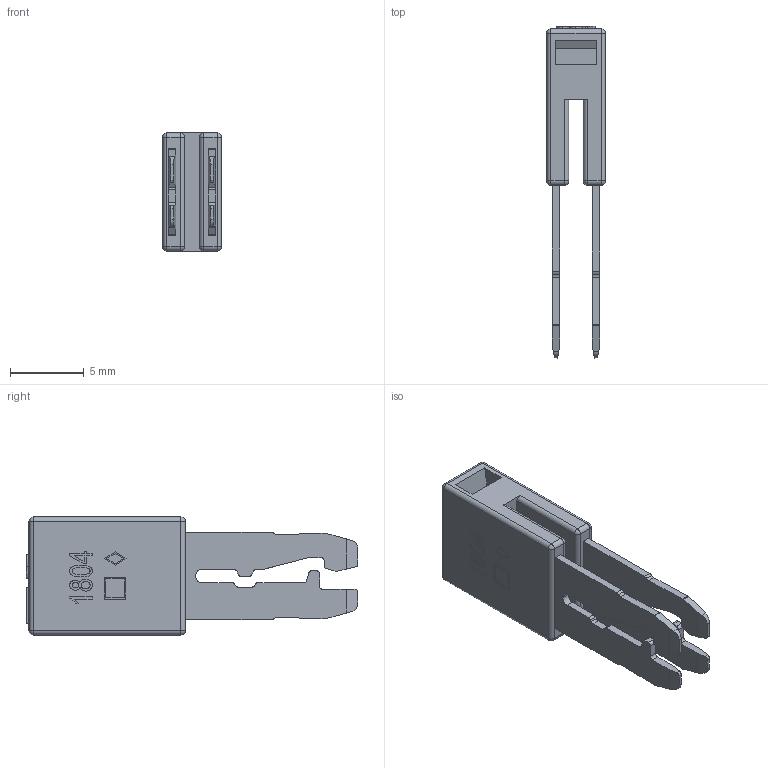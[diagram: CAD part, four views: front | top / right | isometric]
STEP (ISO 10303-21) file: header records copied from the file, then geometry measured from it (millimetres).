
FILE_DESCRIPTION (( 'STEP AP203' ), '1' );
FILE_NAME ('祛耱桕 耦邃桧栩咫 阎褪.685168.037.STEP', '2019-12-09T12:48:01', ( '' ), ( '' ), 'SwSTEP 2.0', 'SolidWorks 2016', '' );
FILE_SCHEMA (( 'CONFIG_CONTROL_DESIGN' ));
Length unit declared in the file: millimetre
Products named in the file (1): 祛耱桕 耦邃桧栩咫 阎褪.685168.037
Bounding box: 4 x 22.5 x 8 mm (x, y, z)
Volume: 322.6 mm3; surface area: 702.1 mm2
Topology: 1 solids, 1 shells, 359 faces, 969 edges, 626 vertices
Faces by surface type: plane 217, cylinder 77, bspline 53, sphere 12
Entity records: 14004 total; most frequent: CARTESIAN_POINT 5268, ORIENTED_EDGE 1914, DIRECTION 1587, EDGE_CURVE 957, VECTOR 697, LINE 697, VERTEX_POINT 626, AXIS2_PLACEMENT_3D 445
